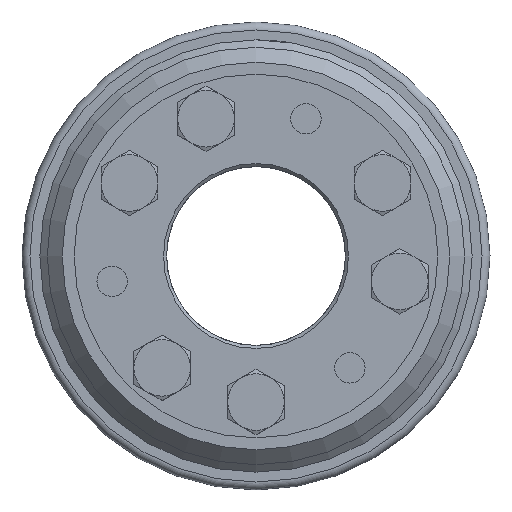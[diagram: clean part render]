
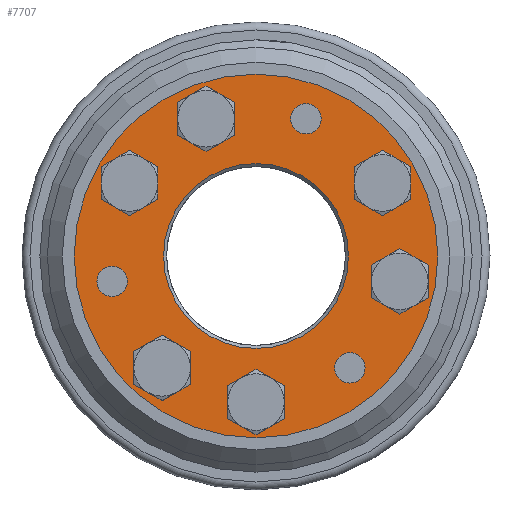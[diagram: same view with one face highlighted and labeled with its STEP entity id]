
A CAD part, left-side view. The second image highlights one B-rep face of the part: STEP entity #7707.
In plain terms, the highlighted planar face has unit normal (-1, 0, 0).
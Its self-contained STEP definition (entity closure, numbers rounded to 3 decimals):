
#828=PLANE('',#8315);
#1709=ORIENTED_EDGE('',*,*,#2679,.F.);
#1710=ORIENTED_EDGE('',*,*,#2680,.F.);
#1711=ORIENTED_EDGE('',*,*,#2681,.F.);
#1712=ORIENTED_EDGE('',*,*,#2682,.F.);
#1713=ORIENTED_EDGE('',*,*,#2683,.F.);
#1714=ORIENTED_EDGE('',*,*,#2684,.F.);
#1715=ORIENTED_EDGE('',*,*,#2677,.T.);
#1716=ORIENTED_EDGE('',*,*,#2675,.T.);
#1717=ORIENTED_EDGE('',*,*,#2673,.T.);
#1718=ORIENTED_EDGE('',*,*,#2671,.T.);
#1719=ORIENTED_EDGE('',*,*,#2670,.F.);
#2670=EDGE_CURVE('',#3256,#3256,#3658,.T.);
#2671=EDGE_CURVE('',#3257,#3257,#3659,.T.);
#2673=EDGE_CURVE('',#3259,#3259,#3661,.T.);
#2675=EDGE_CURVE('',#3261,#3261,#3663,.T.);
#2677=EDGE_CURVE('',#3263,#3263,#3665,.T.);
#2679=EDGE_CURVE('',#3265,#3265,#3667,.T.);
#2680=EDGE_CURVE('',#3266,#3266,#3668,.T.);
#2681=EDGE_CURVE('',#3267,#3267,#3669,.T.);
#2682=EDGE_CURVE('',#3268,#3268,#3670,.T.);
#2683=EDGE_CURVE('',#3269,#3269,#3671,.T.);
#2684=EDGE_CURVE('',#3270,#3270,#3672,.T.);
#3256=VERTEX_POINT('',#11417);
#3257=VERTEX_POINT('',#11420);
#3259=VERTEX_POINT('',#11425);
#3261=VERTEX_POINT('',#11430);
#3263=VERTEX_POINT('',#11435);
#3265=VERTEX_POINT('',#11440);
#3266=VERTEX_POINT('',#11442);
#3267=VERTEX_POINT('',#11444);
#3268=VERTEX_POINT('',#11446);
#3269=VERTEX_POINT('',#11448);
#3270=VERTEX_POINT('',#11450);
#3658=CIRCLE('',#8302,31.);
#3659=CIRCLE('',#8304,5.1);
#3661=CIRCLE('',#8307,5.1);
#3663=CIRCLE('',#8310,5.1);
#3665=CIRCLE('',#8313,61.);
#3667=CIRCLE('',#8316,8.6);
#3668=CIRCLE('',#8317,8.6);
#3669=CIRCLE('',#8318,8.6);
#3670=CIRCLE('',#8319,8.6);
#3671=CIRCLE('',#8320,8.6);
#3672=CIRCLE('',#8321,8.6);
#4166=EDGE_LOOP('',(#1709));
#4167=EDGE_LOOP('',(#1710));
#4168=EDGE_LOOP('',(#1711));
#4169=EDGE_LOOP('',(#1712));
#4170=EDGE_LOOP('',(#1713));
#4171=EDGE_LOOP('',(#1714));
#4172=EDGE_LOOP('',(#1715));
#4173=EDGE_LOOP('',(#1716));
#4174=EDGE_LOOP('',(#1717));
#4175=EDGE_LOOP('',(#1718));
#4176=EDGE_LOOP('',(#1719));
#4742=FACE_BOUND('',#4166,.T.);
#4743=FACE_BOUND('',#4167,.T.);
#4744=FACE_BOUND('',#4168,.T.);
#4745=FACE_BOUND('',#4169,.T.);
#4746=FACE_BOUND('',#4170,.T.);
#4747=FACE_BOUND('',#4171,.T.);
#4748=FACE_BOUND('',#4172,.T.);
#4749=FACE_BOUND('',#4173,.T.);
#4750=FACE_BOUND('',#4174,.T.);
#4751=FACE_BOUND('',#4175,.T.);
#4752=FACE_BOUND('',#4176,.T.);
#7707=ADVANCED_FACE('',(#4742,#4743,#4744,#4745,#4746,#4747,#4748,#4749,
#4750,#4751,#4752),#828,.T.);
#8302=AXIS2_PLACEMENT_3D('',#11416,#9551,#9552);
#8304=AXIS2_PLACEMENT_3D('',#11419,#9555,#9556);
#8307=AXIS2_PLACEMENT_3D('',#11424,#9561,#9562);
#8310=AXIS2_PLACEMENT_3D('',#11429,#9567,#9568);
#8313=AXIS2_PLACEMENT_3D('',#11434,#9573,#9574);
#8315=AXIS2_PLACEMENT_3D('',#11438,#9577,#9578);
#8316=AXIS2_PLACEMENT_3D('',#11439,#9579,#9580);
#8317=AXIS2_PLACEMENT_3D('',#11441,#9581,#9582);
#8318=AXIS2_PLACEMENT_3D('',#11443,#9583,#9584);
#8319=AXIS2_PLACEMENT_3D('',#11445,#9585,#9586);
#8320=AXIS2_PLACEMENT_3D('',#11447,#9587,#9588);
#8321=AXIS2_PLACEMENT_3D('',#11449,#9589,#9590);
#9551=DIRECTION('',(-1.,0.,0.));
#9552=DIRECTION('',(0.,0.,-1.));
#9555=DIRECTION('',(1.,0.,0.));
#9556=DIRECTION('',(0.,0.,-1.));
#9561=DIRECTION('',(1.,0.,0.));
#9562=DIRECTION('',(0.,0.,-1.));
#9567=DIRECTION('',(1.,0.,0.));
#9568=DIRECTION('',(0.,0.,-1.));
#9573=DIRECTION('',(-1.,0.,0.));
#9574=DIRECTION('',(0.,0.,-1.));
#9577=DIRECTION('',(-1.,0.,0.));
#9578=DIRECTION('',(0.,0.,-1.));
#9579=DIRECTION('',(-1.,0.,0.));
#9580=DIRECTION('',(0.,0.,1.));
#9581=DIRECTION('',(-1.,0.,0.));
#9582=DIRECTION('',(0.,0.,1.));
#9583=DIRECTION('',(-1.,0.,0.));
#9584=DIRECTION('',(0.,0.,1.));
#9585=DIRECTION('',(-1.,0.,0.));
#9586=DIRECTION('',(0.,0.,1.));
#9587=DIRECTION('',(-1.,0.,0.));
#9588=DIRECTION('',(0.,0.,1.));
#9589=DIRECTION('',(-1.,0.,0.));
#9590=DIRECTION('',(0.,0.,1.));
#11416=CARTESIAN_POINT('',(-48.653,0.,0.));
#11417=CARTESIAN_POINT('',(-48.653,0.,-31.));
#11419=CARTESIAN_POINT('',(-48.653,-31.497,-37.536));
#11420=CARTESIAN_POINT('',(-48.653,-31.497,-42.636));
#11424=CARTESIAN_POINT('',(-48.653,48.256,-8.509));
#11425=CARTESIAN_POINT('',(-48.653,48.256,-13.609));
#11429=CARTESIAN_POINT('',(-48.653,-16.759,46.045));
#11430=CARTESIAN_POINT('',(-48.653,-16.759,40.945));
#11434=CARTESIAN_POINT('',(-48.653,0.,0.));
#11435=CARTESIAN_POINT('',(-48.653,0.,-61.));
#11438=CARTESIAN_POINT('',(-48.653,0.,-30.));
#11439=CARTESIAN_POINT('',(-48.653,42.435,24.5));
#11440=CARTESIAN_POINT('',(-48.653,42.435,33.1));
#11441=CARTESIAN_POINT('',(-48.653,16.759,46.045));
#11442=CARTESIAN_POINT('',(-48.653,16.759,54.645));
#11443=CARTESIAN_POINT('',(-48.653,0.,-49.));
#11444=CARTESIAN_POINT('',(-48.653,0.,-40.4));
#11445=CARTESIAN_POINT('',(-48.653,31.497,-37.536));
#11446=CARTESIAN_POINT('',(-48.653,31.497,-28.936));
#11447=CARTESIAN_POINT('',(-48.653,-42.435,24.5));
#11448=CARTESIAN_POINT('',(-48.653,-42.435,33.1));
#11449=CARTESIAN_POINT('',(-48.653,-48.256,-8.509));
#11450=CARTESIAN_POINT('',(-48.653,-48.256,0.091));
